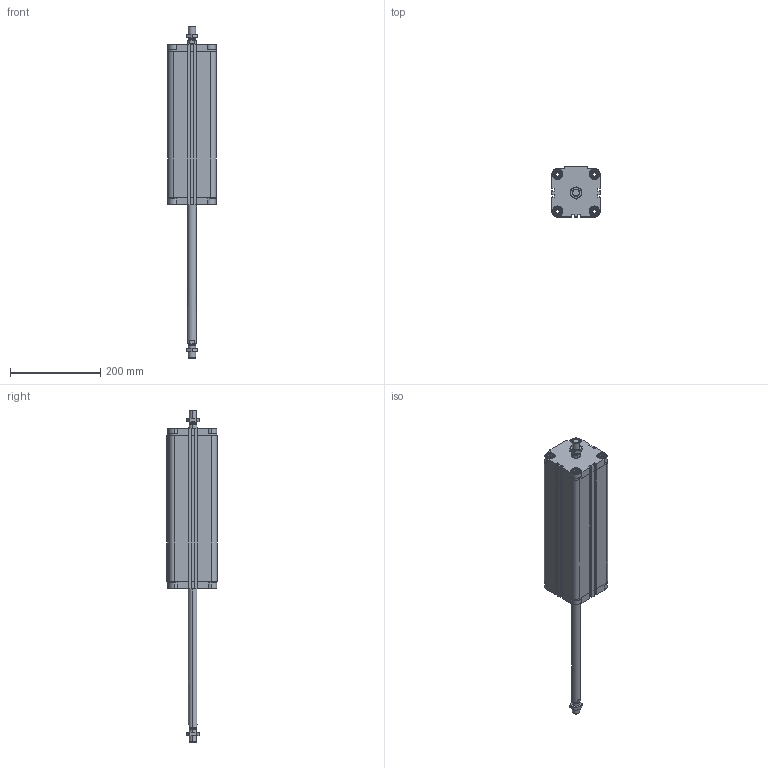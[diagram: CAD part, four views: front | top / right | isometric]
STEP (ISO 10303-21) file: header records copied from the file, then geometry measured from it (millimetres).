
FILE_DESCRIPTION (( 'STEP AP203' ), '1' );
FILE_NAME ('CDVU80-300M-P.STEP', '2020-07-21T15:27:41', ( '' ), ( '' ), 'SwSTEP 2.0', 'SolidWorks 2019', '' );
FILE_SCHEMA (( 'CONFIG_CONTROL_DESIGN' ));
Length unit declared in the file: millimetre
Products named in the file (1): CDVU80-300M-P
Bounding box: 107 x 111 x 736 mm (x, y, z)
Volume: 2478857.3 mm3; surface area: 420413.5 mm2
Topology: 4 solids, 4 shells, 706 faces, 1888 edges, 1234 vertices
Faces by surface type: plane 410, cylinder 216, cone 80
Entity records: 22967 total; most frequent: CARTESIAN_POINT 5177, ORIENTED_EDGE 3768, DIRECTION 3610, EDGE_CURVE 1884, AXIS2_PLACEMENT_3D 1235, VERTEX_POINT 1234, VECTOR 1140, LINE 1140
